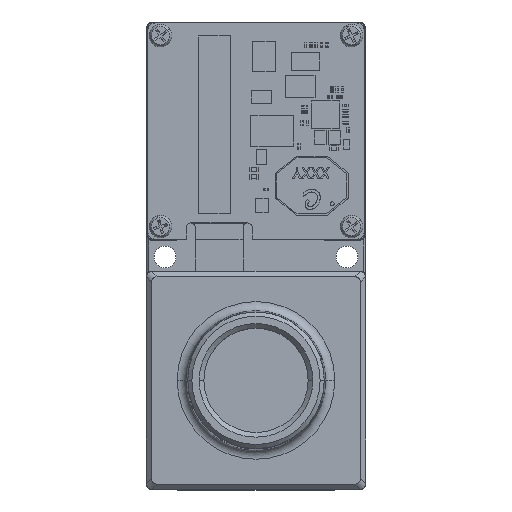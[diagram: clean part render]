
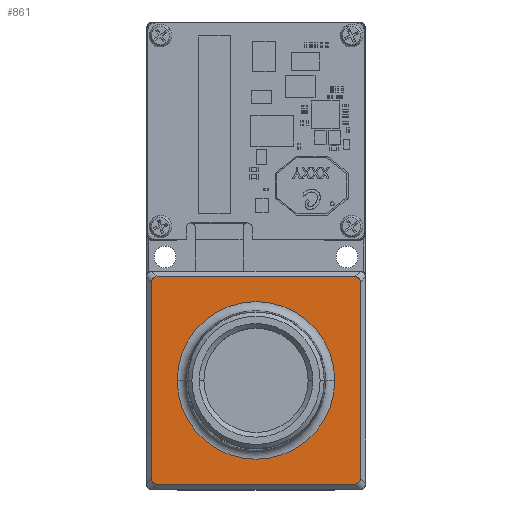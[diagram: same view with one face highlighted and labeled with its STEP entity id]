
A CAD part, top view. The second image highlights one B-rep face of the part: STEP entity #861.
In plain terms, the highlighted planar face has unit normal (0, 0, 1).
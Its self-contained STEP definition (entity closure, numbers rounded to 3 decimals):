
#861 = ADVANCED_FACE ( 'NONE', ( #36117, #46012 ), #125861, .F. ) ;
#915 = AXIS2_PLACEMENT_3D ( 'NONE', #140535, #36363, #131364 ) ;
#3785 = CARTESIAN_POINT ( 'NONE',  ( 11.475, 11.178, 8. ) ) ;
#6615 = ORIENTED_EDGE ( 'NONE', *, *, #96803, .T. ) ;
#11536 =( BOUNDED_CURVE ( )  B_SPLINE_CURVE ( 3, ( #67320, #3785, #96429, #142838 ),
 .UNSPECIFIED., .F., .T. ) 
 B_SPLINE_CURVE_WITH_KNOTS ( ( 4, 4 ),
 ( 5.749, 6.802 ),
 .UNSPECIFIED. ) 
 CURVE ( )  GEOMETRIC_REPRESENTATION_ITEM ( )  RATIONAL_B_SPLINE_CURVE ( ( 1., 0.91, 0.91, 1. ) ) 
 REPRESENTATION_ITEM ( '' )  );
#14426 = VECTOR ( 'NONE', #141529, 1000. ) ;
#14612 =( BOUNDED_CURVE ( )  B_SPLINE_CURVE ( 3, ( #46358, #58515, #117031, #60024 ),
 .UNSPECIFIED., .F., .T. ) 
 B_SPLINE_CURVE_WITH_KNOTS ( ( 4, 4 ),
 ( 2.623, 3.675 ),
 .UNSPECIFIED. ) 
 CURVE ( )  GEOMETRIC_REPRESENTATION_ITEM ( )  RATIONAL_B_SPLINE_CURVE ( ( 1., 0.91, 0.91, 1. ) ) 
 REPRESENTATION_ITEM ( '' )  );
#20520 = LINE ( 'NONE', #66887, #43192 ) ;
#21431 = CARTESIAN_POINT ( 'NONE',  ( 11.255, -11.4, 8. ) ) ;
#21717 = CARTESIAN_POINT ( 'NONE',  ( 0., 0., 8. ) ) ;
#28055 = ORIENTED_EDGE ( 'NONE', *, *, #68746, .T. ) ;
#28724 = EDGE_LOOP ( 'NONE', ( #48028, #123561, #95616, #85177, #121286, #48428, #28055, #114597 ) ) ;
#34855 = AXIS2_PLACEMENT_3D ( 'NONE', #62590, #87622, #143155 ) ;
#36117 = FACE_BOUND ( 'NONE', #130502, .T. ) ;
#36363 = DIRECTION ( 'NONE',  ( 0., 0., -1. ) ) ;
#38373 = LINE ( 'NONE', #97618, #58879 ) ;
#41153 = CARTESIAN_POINT ( 'NONE',  ( 11.475, 10.794, 8. ) ) ;
#43192 = VECTOR ( 'NONE', #113251, 1000. ) ;
#45003 = CARTESIAN_POINT ( 'NONE',  ( -10.874, -11.4, 8. ) ) ;
#46012 = FACE_OUTER_BOUND ( 'NONE', #28724, .T. ) ;
#46358 = CARTESIAN_POINT ( 'NONE',  ( -10.874, 11.4, 8. ) ) ;
#46376 = EDGE_CURVE ( 'NONE', #51923, #132594, #75472, .T. ) ;
#47521 = VERTEX_POINT ( 'NONE', #86226 ) ;
#48015 = CARTESIAN_POINT ( 'NONE',  ( -8.666, 0., 8. ) ) ;
#48028 = ORIENTED_EDGE ( 'NONE', *, *, #81469, .T. ) ;
#48428 = ORIENTED_EDGE ( 'NONE', *, *, #99727, .T. ) ;
#51923 = VERTEX_POINT ( 'NONE', #107170 ) ;
#54291 = CIRCLE ( 'NONE', #34855, 8.666 ) ;
#55640 = CARTESIAN_POINT ( 'NONE',  ( 10.874, -11.4, 8. ) ) ;
#57890 = CARTESIAN_POINT ( 'NONE',  ( -11.475, -11.178, 8. ) ) ;
#58515 = CARTESIAN_POINT ( 'NONE',  ( -11.255, 11.4, 8. ) ) ;
#58879 = VECTOR ( 'NONE', #76378, 1000. ) ;
#60024 = CARTESIAN_POINT ( 'NONE',  ( -11.475, 10.794, 8. ) ) ;
#61331 = VERTEX_POINT ( 'NONE', #64947 ) ;
#62590 = CARTESIAN_POINT ( 'NONE',  ( 0., 0., 8. ) ) ;
#64947 = CARTESIAN_POINT ( 'NONE',  ( -10.874, -11.4, 8. ) ) ;
#65930 = EDGE_CURVE ( 'NONE', #132594, #92015, #20520, .T. ) ;
#66056 = DIRECTION ( 'NONE',  ( 1., 0., 0. ) ) ;
#66887 = CARTESIAN_POINT ( 'NONE',  ( 11.475, 0., 8. ) ) ;
#67320 = CARTESIAN_POINT ( 'NONE',  ( 11.475, 10.794, 8. ) ) ;
#67352 = CARTESIAN_POINT ( 'NONE',  ( 8.666, 0., 8. ) ) ;
#68071 = DIRECTION ( 'NONE',  ( 0., 0., -1. ) ) ;
#68746 = EDGE_CURVE ( 'NONE', #73187, #88039, #95875, .T. ) ;
#72456 = EDGE_CURVE ( 'NONE', #47521, #92947, #38373, .T. ) ;
#73187 = VERTEX_POINT ( 'NONE', #148150 ) ;
#75472 =( BOUNDED_CURVE ( )  B_SPLINE_CURVE ( 3, ( #55640, #21431, #146140, #134752 ),
 .UNSPECIFIED., .F., .T. ) 
 B_SPLINE_CURVE_WITH_KNOTS ( ( 4, 4 ),
 ( 5.765, 6.817 ),
 .UNSPECIFIED. ) 
 CURVE ( )  GEOMETRIC_REPRESENTATION_ITEM ( )  RATIONAL_B_SPLINE_CURVE ( ( 1., 0.91, 0.91, 1. ) ) 
 REPRESENTATION_ITEM ( '' )  );
#76378 = DIRECTION ( 'NONE',  ( -1., 0., 0. ) ) ;
#77482 = LINE ( 'NONE', #110158, #105589 ) ;
#81469 = EDGE_CURVE ( 'NONE', #61331, #51923, #77482, .T. ) ;
#82218 = CARTESIAN_POINT ( 'NONE',  ( -11.475, -10.794, 8. ) ) ;
#83901 = EDGE_CURVE ( 'NONE', #92015, #47521, #11536, .T. ) ;
#85177 = ORIENTED_EDGE ( 'NONE', *, *, #83901, .T. ) ;
#85443 = VERTEX_POINT ( 'NONE', #67352 ) ;
#86226 = CARTESIAN_POINT ( 'NONE',  ( 10.874, 11.4, 8. ) ) ;
#87473 = CARTESIAN_POINT ( 'NONE',  ( -11.475, -10.794, 8. ) ) ;
#87622 = DIRECTION ( 'NONE',  ( 0., 0., -1. ) ) ;
#88039 = VERTEX_POINT ( 'NONE', #87473 ) ;
#92015 = VERTEX_POINT ( 'NONE', #41153 ) ;
#92343 = DIRECTION ( 'NONE',  ( -1., 0., 0. ) ) ;
#92947 = VERTEX_POINT ( 'NONE', #117264 ) ;
#95616 = ORIENTED_EDGE ( 'NONE', *, *, #65930, .T. ) ;
#95875 = LINE ( 'NONE', #142283, #14426 ) ;
#96429 = CARTESIAN_POINT ( 'NONE',  ( 11.255, 11.4, 8. ) ) ;
#96486 = AXIS2_PLACEMENT_3D ( 'NONE', #21717, #68071, #92343 ) ;
#96803 = EDGE_CURVE ( 'NONE', #85443, #103583, #54291, .T. ) ;
#97618 = CARTESIAN_POINT ( 'NONE',  ( 0., 11.4, 8. ) ) ;
#99727 = EDGE_CURVE ( 'NONE', #92947, #73187, #14612, .T. ) ;
#103583 = VERTEX_POINT ( 'NONE', #48015 ) ;
#105589 = VECTOR ( 'NONE', #66056, 1000. ) ;
#107170 = CARTESIAN_POINT ( 'NONE',  ( 10.874, -11.4, 8. ) ) ;
#110158 = CARTESIAN_POINT ( 'NONE',  ( 0., -11.4, 8. ) ) ;
#110331 =( BOUNDED_CURVE ( )  B_SPLINE_CURVE ( 3, ( #82218, #57890, #149906, #45003 ),
 .UNSPECIFIED., .F., .F. ) 
 B_SPLINE_CURVE_WITH_KNOTS ( ( 4, 4 ),
 ( 2.608, 3.66 ),
 .UNSPECIFIED. ) 
 CURVE ( )  GEOMETRIC_REPRESENTATION_ITEM ( )  RATIONAL_B_SPLINE_CURVE ( ( 1., 0.91, 0.91, 1. ) ) 
 REPRESENTATION_ITEM ( '' )  );
#111260 = EDGE_CURVE ( 'NONE', #103583, #85443, #131971, .T. ) ;
#113251 = DIRECTION ( 'NONE',  ( 0., 1., 0. ) ) ;
#114597 = ORIENTED_EDGE ( 'NONE', *, *, #138307, .T. ) ;
#117031 = CARTESIAN_POINT ( 'NONE',  ( -11.475, 11.178, 8. ) ) ;
#117264 = CARTESIAN_POINT ( 'NONE',  ( -10.874, 11.4, 8. ) ) ;
#121286 = ORIENTED_EDGE ( 'NONE', *, *, #72456, .T. ) ;
#123561 = ORIENTED_EDGE ( 'NONE', *, *, #46376, .T. ) ;
#124665 = CARTESIAN_POINT ( 'NONE',  ( 11.475, -10.794, 8. ) ) ;
#125861 = PLANE ( 'NONE',  #96486 ) ;
#130502 = EDGE_LOOP ( 'NONE', ( #141389, #6615 ) ) ;
#131364 = DIRECTION ( 'NONE',  ( -1., 0., 0. ) ) ;
#131971 = CIRCLE ( 'NONE', #915, 8.666 ) ;
#132594 = VERTEX_POINT ( 'NONE', #124665 ) ;
#134752 = CARTESIAN_POINT ( 'NONE',  ( 11.475, -10.794, 8. ) ) ;
#138307 = EDGE_CURVE ( 'NONE', #88039, #61331, #110331, .T. ) ;
#140535 = CARTESIAN_POINT ( 'NONE',  ( 0., 0., 8. ) ) ;
#141389 = ORIENTED_EDGE ( 'NONE', *, *, #111260, .T. ) ;
#141529 = DIRECTION ( 'NONE',  ( 0., -1., 0. ) ) ;
#142283 = CARTESIAN_POINT ( 'NONE',  ( -11.475, 0., 8. ) ) ;
#142838 = CARTESIAN_POINT ( 'NONE',  ( 10.874, 11.4, 8. ) ) ;
#143155 = DIRECTION ( 'NONE',  ( -1., 0., 0. ) ) ;
#146140 = CARTESIAN_POINT ( 'NONE',  ( 11.475, -11.178, 8. ) ) ;
#148150 = CARTESIAN_POINT ( 'NONE',  ( -11.475, 10.794, 8. ) ) ;
#149906 = CARTESIAN_POINT ( 'NONE',  ( -11.255, -11.4, 8. ) ) ;
